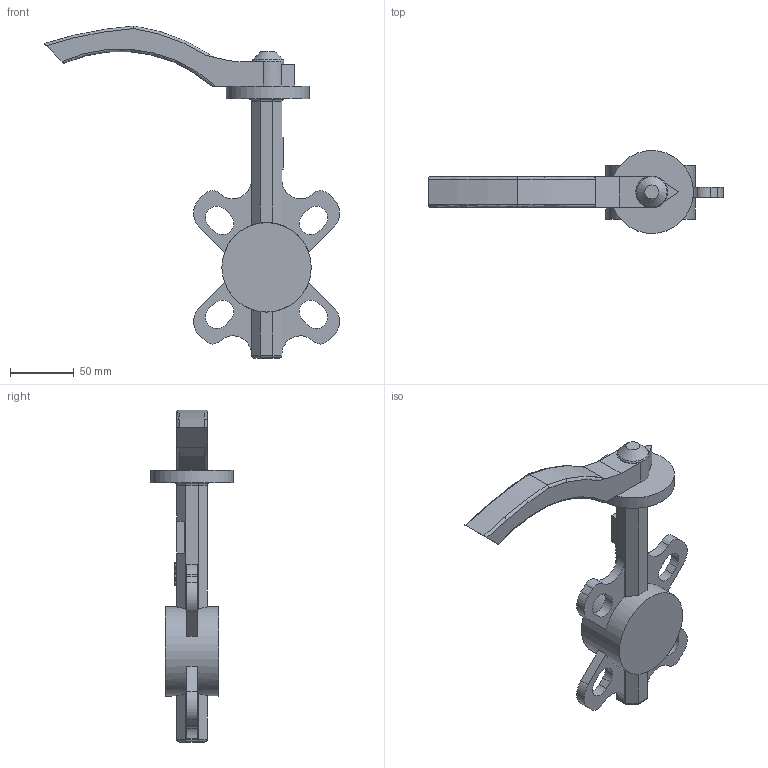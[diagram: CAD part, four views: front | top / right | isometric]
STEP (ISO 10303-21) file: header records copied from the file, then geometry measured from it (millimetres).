
FILE_DESCRIPTION(/* description */ (''),/* implementation_level */ '2;1');
FILE_NAME(/* name */ 'DN40.stp',/* time_stamp */ '2026-08-14T14:07:33+08:00',/* author */ (''),/* organization */ (''),/* preprocessor_version */ 'ST-DEVELOPER v16.7',/* originating_system */ 'SIEMENS PLM Software NX 12.0',/* authorisation */ '');
FILE_SCHEMA (('AUTOMOTIVE_DESIGN { 1 0 10303 214 3 1 1 1 }'));
Length unit declared in the file: millimetre
Products named in the file (1): DN40
Bounding box: 231.17 x 65 x 260 mm (x, y, z)
Volume: 381486.5 mm3; surface area: 64831.6 mm2
Topology: 6 solids, 6 shells, 187 faces, 500 edges, 327 vertices
Faces by surface type: plane 101, cylinder 48, extrusion 30, torus 7, cone 1
Full cylindrical faces by diameter (mm): 25 x1, 65 x1, 70 x1
Entity records: 6068 total; most frequent: CARTESIAN_POINT 1443, ORIENTED_EDGE 976, DIRECTION 860, EDGE_CURVE 488, VECTOR 330, VERTEX_POINT 321, LINE 300, AXIS2_PLACEMENT_3D 265
